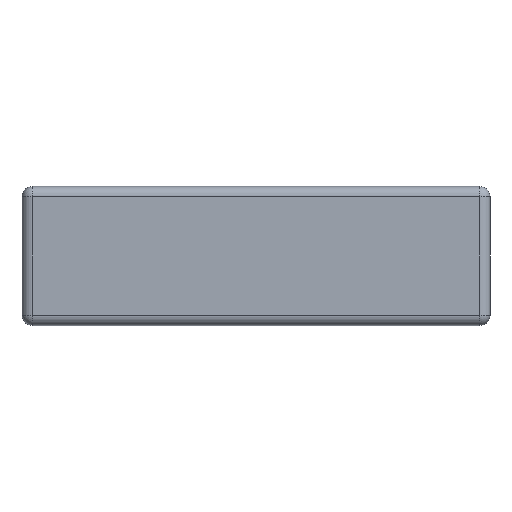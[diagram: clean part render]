
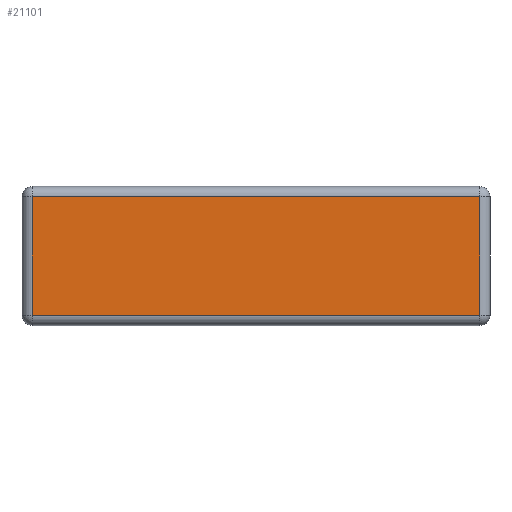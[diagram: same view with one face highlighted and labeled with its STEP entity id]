
A CAD part, front view. The second image highlights one B-rep face of the part: STEP entity #21101.
In plain terms, the highlighted planar face has unit normal (0, -1, 0).
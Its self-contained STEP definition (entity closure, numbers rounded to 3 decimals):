
#176 = VERTEX_POINT ( 'NONE', #22942 ) ;
#619 = DIRECTION ( 'NONE',  ( 0., 1., 0. ) ) ;
#5860 = CARTESIAN_POINT ( 'NONE',  ( -646.272, -165.847, 170.022 ) ) ;
#6318 = EDGE_CURVE ( 'NONE', #50398, #176, #36656, .T. ) ;
#13591 = VECTOR ( 'NONE', #47155, 1000. ) ;
#13699 = CARTESIAN_POINT ( 'NONE',  ( 646.272, -165.847, 170.022 ) ) ;
#17522 = ORIENTED_EDGE ( 'NONE', *, *, #69228, .T. ) ;
#21101 = ADVANCED_FACE ( 'NONE', ( #53812 ), #61697, .F. ) ;
#22942 = CARTESIAN_POINT ( 'NONE',  ( 646.272, -165.847, -172.07 ) ) ;
#24259 = CARTESIAN_POINT ( 'NONE',  ( 0., -165.847, 0. ) ) ;
#31798 = DIRECTION ( 'NONE',  ( 0., 0., 1. ) ) ;
#33495 = EDGE_CURVE ( 'NONE', #176, #49160, #84258, .T. ) ;
#35934 = LINE ( 'NONE', #39615, #13591 ) ;
#36656 = LINE ( 'NONE', #89796, #74335 ) ;
#37771 = DIRECTION ( 'NONE',  ( 0., 0., -1. ) ) ;
#38545 = DIRECTION ( 'NONE',  ( 1., 0., 0. ) ) ;
#39615 = CARTESIAN_POINT ( 'NONE',  ( -646.272, -165.847, 170.022 ) ) ;
#40129 = AXIS2_PLACEMENT_3D ( 'NONE', #24259, #619, #31798 ) ;
#42150 = EDGE_LOOP ( 'NONE', ( #62292, #76190, #17522, #67542 ) ) ;
#47155 = DIRECTION ( 'NONE',  ( -1., 0., 0. ) ) ;
#49160 = VERTEX_POINT ( 'NONE', #68750 ) ;
#50398 = VERTEX_POINT ( 'NONE', #77513 ) ;
#53812 = FACE_OUTER_BOUND ( 'NONE', #42150, .T. ) ;
#58351 = DIRECTION ( 'NONE',  ( 0., 0., 1. ) ) ;
#61697 = PLANE ( 'NONE',  #40129 ) ;
#62292 = ORIENTED_EDGE ( 'NONE', *, *, #6318, .T. ) ;
#67542 = ORIENTED_EDGE ( 'NONE', *, *, #88396, .T. ) ;
#68750 = CARTESIAN_POINT ( 'NONE',  ( 646.272, -165.847, 170.022 ) ) ;
#69228 = EDGE_CURVE ( 'NONE', #49160, #76749, #35934, .T. ) ;
#74335 = VECTOR ( 'NONE', #38545, 1000. ) ;
#75964 = LINE ( 'NONE', #82796, #88865 ) ;
#76190 = ORIENTED_EDGE ( 'NONE', *, *, #33495, .T. ) ;
#76749 = VERTEX_POINT ( 'NONE', #5860 ) ;
#77513 = CARTESIAN_POINT ( 'NONE',  ( -646.272, -165.847, -172.07 ) ) ;
#79628 = VECTOR ( 'NONE', #58351, 1000. ) ;
#82796 = CARTESIAN_POINT ( 'NONE',  ( -646.272, -165.847, -172.07 ) ) ;
#84258 = LINE ( 'NONE', #13699, #79628 ) ;
#88396 = EDGE_CURVE ( 'NONE', #76749, #50398, #75964, .T. ) ;
#88865 = VECTOR ( 'NONE', #37771, 1000. ) ;
#89796 = CARTESIAN_POINT ( 'NONE',  ( 646.272, -165.847, -172.07 ) ) ;
